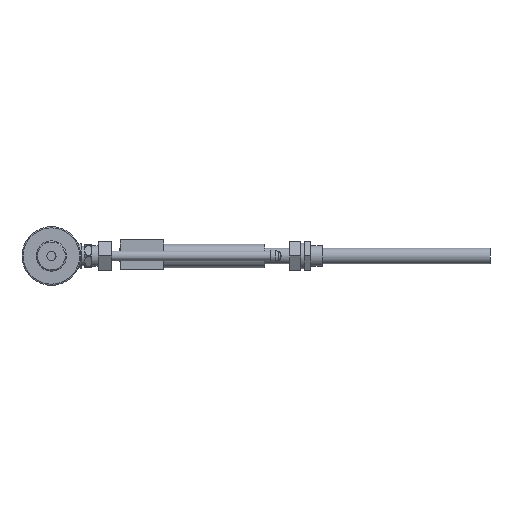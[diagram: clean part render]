
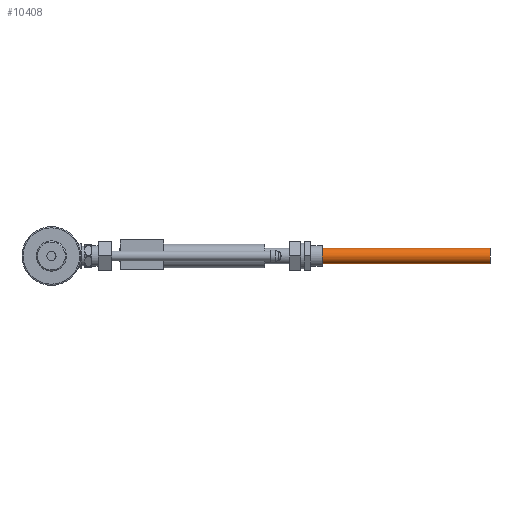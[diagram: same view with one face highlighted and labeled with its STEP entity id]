
A CAD part, left-side view. The second image highlights one B-rep face of the part: STEP entity #10408.
In plain terms, the highlighted cylindrical face has radius 12.5 mm (diameter 25 mm), a partial arc.
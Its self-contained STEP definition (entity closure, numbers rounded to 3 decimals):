
#47 = DIRECTION ( 'NONE',  ( 0., 0., 1. ) ) ;
#48 = DIRECTION ( 'NONE',  ( 0., 1., 0. ) ) ;
#49 = CARTESIAN_POINT ( 'NONE',  ( 433.578, -243.438, 0. ) ) ;
#50 = AXIS2_PLACEMENT_3D ( 'NONE', #49, #48, #47 ) ;
#51 = CYLINDRICAL_SURFACE ( 'NONE', #50, 12.5 ) ;
#52 = FACE_OUTER_BOUND ( 'NONE', #10272, .T. ) ;
#3106 = VERTEX_POINT ( 'NONE', #5810 ) ;
#3107 = VERTEX_POINT ( 'NONE', #5809 ) ;
#3109 = EDGE_CURVE ( 'NONE', #3107, #3110, #5808, .T. ) ;
#3110 = VERTEX_POINT ( 'NONE', #5879 ) ;
#3113 = VERTEX_POINT ( 'NONE', #5873 ) ;
#3115 = EDGE_CURVE ( 'NONE', #3106, #3113, #5872, .T. ) ;
#5805 = DIRECTION ( 'NONE',  ( 0., 1., 0. ) ) ;
#5806 = VECTOR ( 'NONE', #5805, 1000. ) ;
#5807 = CARTESIAN_POINT ( 'NONE',  ( 433.578, -243.438, -12.5 ) ) ;
#5808 = LINE ( 'NONE', #5807, #5806 ) ;
#5809 = CARTESIAN_POINT ( 'NONE',  ( 433.578, -661.1, -12.5 ) ) ;
#5810 = CARTESIAN_POINT ( 'NONE',  ( 433.578, -661.1, 12.5 ) ) ;
#5869 = DIRECTION ( 'NONE',  ( 0., 1., 0. ) ) ;
#5870 = VECTOR ( 'NONE', #5869, 1000. ) ;
#5871 = CARTESIAN_POINT ( 'NONE',  ( 433.578, -243.438, 12.5 ) ) ;
#5872 = LINE ( 'NONE', #5871, #5870 ) ;
#5873 = CARTESIAN_POINT ( 'NONE',  ( 433.578, -390.1, 12.5 ) ) ;
#5879 = CARTESIAN_POINT ( 'NONE',  ( 433.578, -390.1, -12.5 ) ) ;
#10246 = ORIENTED_EDGE ( 'NONE', *, *, #10247, .T. ) ;
#10247 = EDGE_CURVE ( 'NONE', #3113, #3110, #16434, .T. ) ;
#10264 = ORIENTED_EDGE ( 'NONE', *, *, #3115, .T. ) ;
#10268 = EDGE_CURVE ( 'NONE', #3107, #3106, #16463, .T. ) ;
#10272 = EDGE_LOOP ( 'NONE', ( #10406, #10407, #10264, #10246 ) ) ;
#10406 = ORIENTED_EDGE ( 'NONE', *, *, #3109, .F. ) ;
#10407 = ORIENTED_EDGE ( 'NONE', *, *, #10268, .T. ) ;
#10408 = ADVANCED_FACE ( 'NONE', ( #52 ), #51, .T. ) ;
#16430 = DIRECTION ( 'NONE',  ( 0., 0., -1. ) ) ;
#16431 = DIRECTION ( 'NONE',  ( 0., -1., 0. ) ) ;
#16432 = CARTESIAN_POINT ( 'NONE',  ( 433.578, -390.1, 0. ) ) ;
#16433 = AXIS2_PLACEMENT_3D ( 'NONE', #16432, #16431, #16430 ) ;
#16434 = CIRCLE ( 'NONE', #16433, 12.5 ) ;
#16459 = DIRECTION ( 'NONE',  ( 0., 0., 1. ) ) ;
#16460 = DIRECTION ( 'NONE',  ( 0., 1., 0. ) ) ;
#16461 = CARTESIAN_POINT ( 'NONE',  ( 433.578, -661.1, 0. ) ) ;
#16462 = AXIS2_PLACEMENT_3D ( 'NONE', #16461, #16460, #16459 ) ;
#16463 = CIRCLE ( 'NONE', #16462, 12.5 ) ;
